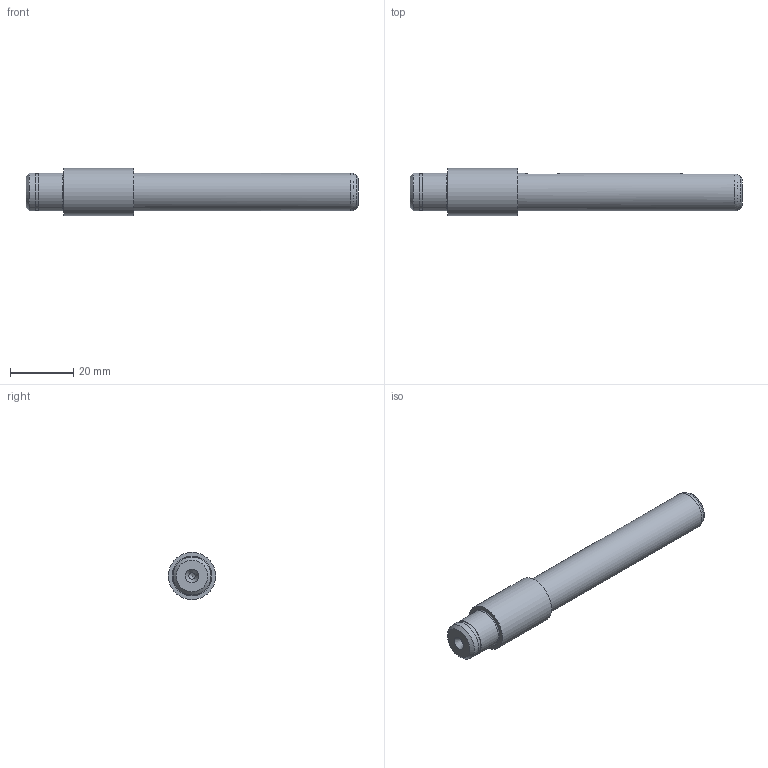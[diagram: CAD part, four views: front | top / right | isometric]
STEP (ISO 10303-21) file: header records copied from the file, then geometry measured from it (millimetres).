
FILE_DESCRIPTION(/* description */ (''),/* implementation_level */ '2;1');
FILE_NAME(/* name */ '',/* time_stamp */ '2026-07-31T13:47:24+09:00',/* author */ ('jhkim'),/* organization */ (''),/* preprocessor_version */ 'ST-DEVELOPER v20.1',/* originating_system */ 'Autodesk Inventor 2027',/* authorisation */ '');
FILE_SCHEMA (('AUTOMOTIVE_DESIGN { 1 0 10303 214 3 1 1 }'));
Length unit declared in the file: millimetre
Products named in the file (1): 축
Bounding box: 105 x 15 x 15 mm (x, y, z)
Volume: 12874.3 mm3; surface area: 4675.3 mm2
Topology: 1 solids, 1 shells, 31 faces, 71 edges, 47 vertices
Faces by surface type: plane 12, cylinder 10, cone 6, torus 3
Full cylindrical faces by diameter (mm): 2 x2, 11.5 x1, 12 x3, 15 x1
Entity records: 974 total; most frequent: CARTESIAN_POINT 230, DIRECTION 149, ORIENTED_EDGE 138, EDGE_CURVE 69, AXIS2_PLACEMENT_3D 60, VERTEX_POINT 47, EDGE_LOOP 38, FACE_OUTER_BOUND 31
